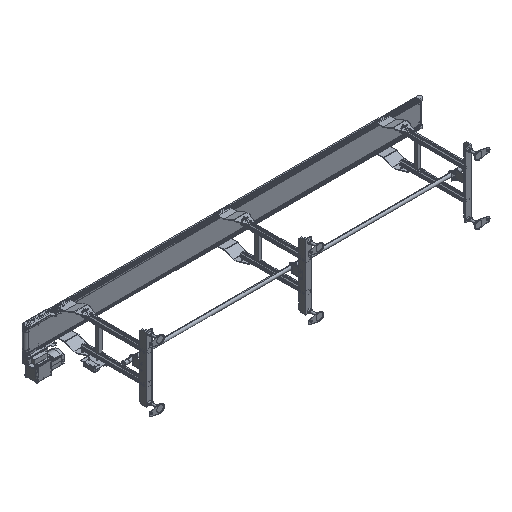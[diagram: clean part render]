
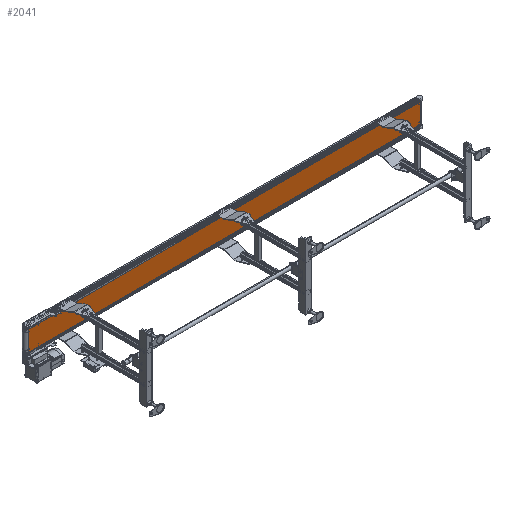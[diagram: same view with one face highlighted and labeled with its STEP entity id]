
A CAD part, isometric view. The second image highlights one B-rep face of the part: STEP entity #2041.
In plain terms, the highlighted planar face has unit normal (0.004, -1, 0).
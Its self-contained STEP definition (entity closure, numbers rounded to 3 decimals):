
#2041=ADVANCED_FACE('',(#4799),#4798,.F.);
#4798=PLANE('',#32224);
#4799=FACE_OUTER_BOUND('',#32225,.T.);
#32221=CARTESIAN_POINT('',(2996.054,-26.763,-85.));
#32222=DIRECTION('',(-0.004,1.,0.));
#32223=DIRECTION('',(-1.,-0.004,0.));
#32224=AXIS2_PLACEMENT_3D('',#32221,#32222,#32223);
#32225=EDGE_LOOP('',(#47074,#47075,#47076,#47077));
#47074=ORIENTED_EDGE('',*,*,#60825,.T.);
#47075=ORIENTED_EDGE('',*,*,#60819,.F.);
#47076=ORIENTED_EDGE('',*,*,#60820,.F.);
#47077=ORIENTED_EDGE('',*,*,#60815,.T.);
#60815=EDGE_CURVE('',#67727,#67720,#67728,.T.);
#60819=EDGE_CURVE('',#67747,#67740,#67754,.T.);
#60820=EDGE_CURVE('',#67727,#67747,#67760,.T.);
#60825=EDGE_CURVE('',#67720,#67740,#67794,.T.);
#67720=VERTEX_POINT('',#113480);
#67727=VERTEX_POINT('',#113485);
#67728=LINE('',#113486,#113487);
#67740=VERTEX_POINT('',#113493);
#67747=VERTEX_POINT('',#113498);
#67754=LINE('',#113503,#113504);
#67760=LINE('',#113506,#113507);
#67794=LINE('',#113527,#113528);
#113480=CARTESIAN_POINT('',(19.502,-37.7,-75.));
#113485=CARTESIAN_POINT('',(19.502,-37.7,75.));
#113486=CARTESIAN_POINT('',(19.502,-37.7,75.));
#113487=VECTOR('',#113488,150.);
#113488=DIRECTION('',(0.,0.,-1.));
#113493=CARTESIAN_POINT('',(2986.054,-26.8,-75.));
#113498=CARTESIAN_POINT('',(2986.054,-26.8,75.));
#113503=CARTESIAN_POINT('',(2986.054,-26.8,75.));
#113504=VECTOR('',#113505,150.);
#113505=DIRECTION('',(0.,0.,-1.));
#113506=CARTESIAN_POINT('',(19.502,-37.7,75.));
#113507=VECTOR('',#113508,2966.572);
#113508=DIRECTION('',(1.,0.004,0.));
#113527=CARTESIAN_POINT('',(19.502,-37.7,-75.));
#113528=VECTOR('',#113529,2966.572);
#113529=DIRECTION('',(1.,0.004,0.));
